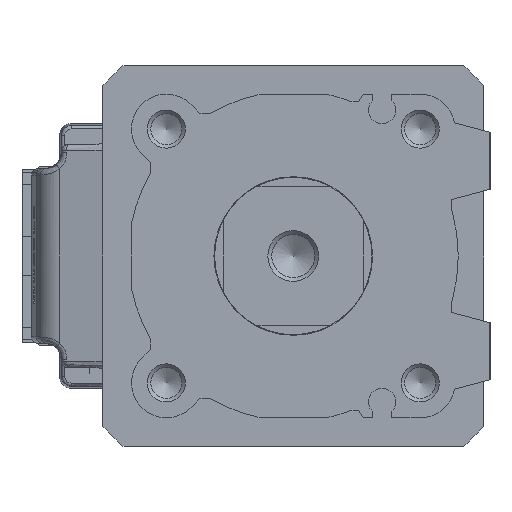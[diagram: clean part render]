
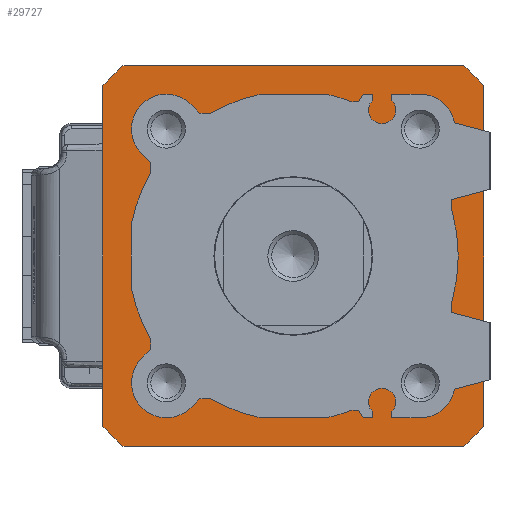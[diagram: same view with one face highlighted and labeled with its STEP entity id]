
A CAD part, left-side view. The second image highlights one B-rep face of the part: STEP entity #29727.
In plain terms, the highlighted planar face has unit normal (-1, 0, 0) as drawn and (0, 0, 1) by its records, which use the part's own axes.
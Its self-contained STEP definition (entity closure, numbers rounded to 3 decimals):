
#349 = EDGE_CURVE ( 'NONE', #22663, #25517, #48894, .T. ) ;
#366 = DIRECTION ( 'NONE',  ( 0., 0., 1. ) ) ;
#378 = VERTEX_POINT ( 'NONE', #4621 ) ;
#1093 = DIRECTION ( 'NONE',  ( -1., 0., 0. ) ) ;
#1178 = LINE ( 'NONE', #16066, #14037 ) ;
#1473 = CARTESIAN_POINT ( 'NONE',  ( -30., 26.834, 0. ) ) ;
#3391 = CIRCLE ( 'NONE', #42623, 40.25 ) ;
#3558 = AXIS2_PLACEMENT_3D ( 'NONE', #31035, #26422, #6696 ) ;
#3674 = EDGE_CURVE ( 'NONE', #12699, #13010, #13386, .T. ) ;
#4621 = CARTESIAN_POINT ( 'NONE',  ( -26.834, -30., 0. ) ) ;
#4709 = LINE ( 'NONE', #35948, #36697 ) ;
#4727 = CARTESIAN_POINT ( 'NONE',  ( -15.6, 0., 0. ) ) ;
#5411 = CARTESIAN_POINT ( 'NONE',  ( 0., 0., 0. ) ) ;
#5653 = ORIENTED_EDGE ( 'NONE', *, *, #7379, .T. ) ;
#5721 = DIRECTION ( 'NONE',  ( 1., 0., 0. ) ) ;
#5846 = DIRECTION ( 'NONE',  ( 0., 1., 0. ) ) ;
#6165 = LINE ( 'NONE', #21797, #10957 ) ;
#6696 = DIRECTION ( 'NONE',  ( 1., 0., 0. ) ) ;
#7234 = EDGE_CURVE ( 'NONE', #7456, #41864, #3391, .T. ) ;
#7379 = EDGE_CURVE ( 'NONE', #10325, #33830, #28763, .T. ) ;
#7456 = VERTEX_POINT ( 'NONE', #48716 ) ;
#8440 = CARTESIAN_POINT ( 'NONE',  ( -26.834, 30., 0. ) ) ;
#8731 = EDGE_CURVE ( 'NONE', #25517, #7456, #40399, .T. ) ;
#9125 = DIRECTION ( 'NONE',  ( 1., 0., 0. ) ) ;
#9253 = FACE_OUTER_BOUND ( 'NONE', #18137, .T. ) ;
#9514 = FACE_BOUND ( 'NONE', #19911, .T. ) ;
#10023 = DIRECTION ( 'NONE',  ( 0., 0., 1. ) ) ;
#10325 = VERTEX_POINT ( 'NONE', #8440 ) ;
#10734 = CARTESIAN_POINT ( 'NONE',  ( 26.834, 30., 0. ) ) ;
#10957 = VECTOR ( 'NONE', #29741, 1000. ) ;
#11778 = AXIS2_PLACEMENT_3D ( 'NONE', #25210, #40788, #5721 ) ;
#12251 = ORIENTED_EDGE ( 'NONE', *, *, #7234, .T. ) ;
#12590 = CIRCLE ( 'NONE', #11778, 15.6 ) ;
#12699 = VERTEX_POINT ( 'NONE', #4727 ) ;
#13010 = VERTEX_POINT ( 'NONE', #30577 ) ;
#13184 = ORIENTED_EDGE ( 'NONE', *, *, #34651, .F. ) ;
#13287 = CARTESIAN_POINT ( 'NONE',  ( 30., -26.834, 0. ) ) ;
#13309 = ORIENTED_EDGE ( 'NONE', *, *, #8731, .T. ) ;
#13386 = CIRCLE ( 'NONE', #3558, 15.6 ) ;
#13669 = CARTESIAN_POINT ( 'NONE',  ( -30., -26.834, 0. ) ) ;
#14037 = VECTOR ( 'NONE', #9125, 1000. ) ;
#16066 = CARTESIAN_POINT ( 'NONE',  ( -26.834, -30., 0. ) ) ;
#17888 = AXIS2_PLACEMENT_3D ( 'NONE', #31041, #19250, #19995 ) ;
#18137 = EDGE_LOOP ( 'NONE', ( #5653, #27871, #47196, #18480, #49613, #13309, #12251, #19677 ) ) ;
#18352 = CARTESIAN_POINT ( 'NONE',  ( 0., 0., 0. ) ) ;
#18480 = ORIENTED_EDGE ( 'NONE', *, *, #26618, .T. ) ;
#18847 = DIRECTION ( 'NONE',  ( 1., 0., 0. ) ) ;
#19250 = DIRECTION ( 'NONE',  ( 0., 0., 1. ) ) ;
#19677 = ORIENTED_EDGE ( 'NONE', *, *, #25980, .T. ) ;
#19743 = AXIS2_PLACEMENT_3D ( 'NONE', #23694, #366, #47437 ) ;
#19911 = EDGE_LOOP ( 'NONE', ( #45967, #13184 ) ) ;
#19995 = DIRECTION ( 'NONE',  ( 1., 0., 0. ) ) ;
#21296 = DIRECTION ( 'NONE',  ( 1., 0., 0. ) ) ;
#21748 = DIRECTION ( 'NONE',  ( 0., 0., 1. ) ) ;
#21797 = CARTESIAN_POINT ( 'NONE',  ( -30., 26.834, 0. ) ) ;
#22663 = VERTEX_POINT ( 'NONE', #50373 ) ;
#23694 = CARTESIAN_POINT ( 'NONE',  ( 0., 0., 0. ) ) ;
#25210 = CARTESIAN_POINT ( 'NONE',  ( 0., 0., 0. ) ) ;
#25517 = VERTEX_POINT ( 'NONE', #30439 ) ;
#25980 = EDGE_CURVE ( 'NONE', #41864, #10325, #4709, .T. ) ;
#26422 = DIRECTION ( 'NONE',  ( 0., 0., 1. ) ) ;
#26618 = EDGE_CURVE ( 'NONE', #378, #22663, #1178, .T. ) ;
#27027 = DIRECTION ( 'NONE',  ( 0., 0., 1. ) ) ;
#27871 = ORIENTED_EDGE ( 'NONE', *, *, #34580, .T. ) ;
#28493 = PLANE ( 'NONE',  #43595 ) ;
#28763 = CIRCLE ( 'NONE', #19743, 40.25 ) ;
#29727 = ADVANCED_FACE ( 'NONE', ( #9514, #9253 ), #28493, .T. ) ;
#29741 = DIRECTION ( 'NONE',  ( 0., -1., 0. ) ) ;
#30439 = CARTESIAN_POINT ( 'NONE',  ( 30., -26.834, 0. ) ) ;
#30577 = CARTESIAN_POINT ( 'NONE',  ( 15.6, 0., 0. ) ) ;
#31035 = CARTESIAN_POINT ( 'NONE',  ( 0., 0., 0. ) ) ;
#31041 = CARTESIAN_POINT ( 'NONE',  ( 0., 0., 0. ) ) ;
#32988 = EDGE_CURVE ( 'NONE', #41504, #378, #47538, .T. ) ;
#33830 = VERTEX_POINT ( 'NONE', #1473 ) ;
#34580 = EDGE_CURVE ( 'NONE', #33830, #41504, #6165, .T. ) ;
#34651 = EDGE_CURVE ( 'NONE', #13010, #12699, #12590, .T. ) ;
#35948 = CARTESIAN_POINT ( 'NONE',  ( 26.834, 30., 0. ) ) ;
#36697 = VECTOR ( 'NONE', #1093, 1000. ) ;
#37339 = DIRECTION ( 'NONE',  ( 1., 0., 0. ) ) ;
#40399 = LINE ( 'NONE', #13287, #47662 ) ;
#40788 = DIRECTION ( 'NONE',  ( 0., 0., 1. ) ) ;
#41504 = VERTEX_POINT ( 'NONE', #13669 ) ;
#41864 = VERTEX_POINT ( 'NONE', #10734 ) ;
#42623 = AXIS2_PLACEMENT_3D ( 'NONE', #18352, #27027, #18847 ) ;
#43595 = AXIS2_PLACEMENT_3D ( 'NONE', #5411, #10023, #21296 ) ;
#45727 = CARTESIAN_POINT ( 'NONE',  ( 0., 0., 0. ) ) ;
#45967 = ORIENTED_EDGE ( 'NONE', *, *, #3674, .F. ) ;
#46740 = AXIS2_PLACEMENT_3D ( 'NONE', #45727, #21748, #37339 ) ;
#47196 = ORIENTED_EDGE ( 'NONE', *, *, #32988, .T. ) ;
#47437 = DIRECTION ( 'NONE',  ( 1., 0., 0. ) ) ;
#47538 = CIRCLE ( 'NONE', #46740, 40.25 ) ;
#47662 = VECTOR ( 'NONE', #5846, 1000. ) ;
#48716 = CARTESIAN_POINT ( 'NONE',  ( 30., 26.834, 0. ) ) ;
#48894 = CIRCLE ( 'NONE', #17888, 40.25 ) ;
#49613 = ORIENTED_EDGE ( 'NONE', *, *, #349, .T. ) ;
#50373 = CARTESIAN_POINT ( 'NONE',  ( 26.834, -30., 0. ) ) ;
